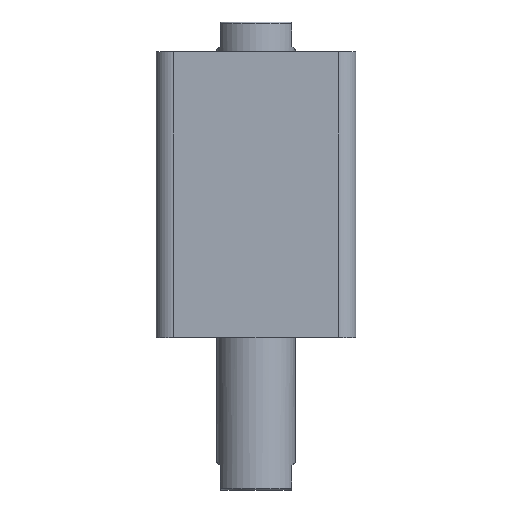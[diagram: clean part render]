
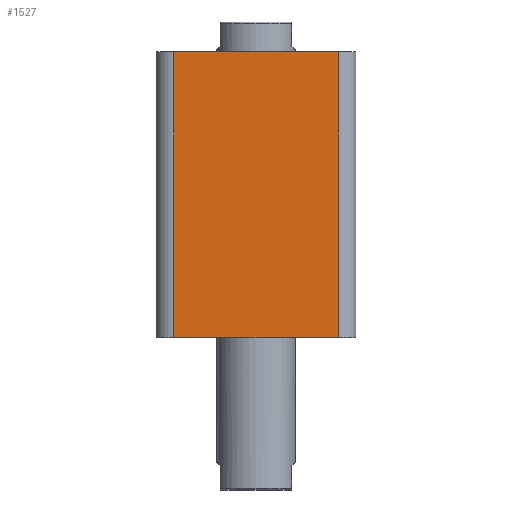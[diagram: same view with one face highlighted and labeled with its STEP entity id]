
A CAD part, front view. The second image highlights one B-rep face of the part: STEP entity #1527.
In plain terms, the highlighted planar face has unit normal (0, -1, 0).
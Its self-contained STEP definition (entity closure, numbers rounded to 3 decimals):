
#66 = AXIS2_PLACEMENT_3D ( 'NONE', #2760, #2983, #2982 ) ;
#108 = EDGE_CURVE ( 'NONE', #3042, #3043, #1102, .T. ) ;
#110 = EDGE_CURVE ( 'NONE', #3206, #1073, #1104, .T. ) ;
#429 = CARTESIAN_POINT ( 'NONE',  ( 47., -57., 163. ) ) ;
#454 = CARTESIAN_POINT ( 'NONE',  ( 47., -57., 0. ) ) ;
#473 = CARTESIAN_POINT ( 'NONE',  ( -47., -57., 163. ) ) ;
#655 = ORIENTED_EDGE ( 'NONE', *, *, #2509, .F. ) ;
#656 = ORIENTED_EDGE ( 'NONE', *, *, #110, .T. ) ;
#1073 = VERTEX_POINT ( 'NONE', #2810 ) ;
#1102 = LINE ( 'NONE', #2844, #1105 ) ;
#1104 = LINE ( 'NONE', #2874, #1109 ) ;
#1105 = VECTOR ( 'NONE', #2916, 1000. ) ;
#1109 = VECTOR ( 'NONE', #2854, 1000. ) ;
#1133 = FACE_OUTER_BOUND ( 'NONE', #3006, .T. ) ;
#1223 = LINE ( 'NONE', #1673, #1227 ) ;
#1226 = LINE ( 'NONE', #1681, #1229 ) ;
#1227 = VECTOR ( 'NONE', #1668, 1000. ) ;
#1229 = VECTOR ( 'NONE', #1684, 1000. ) ;
#1527 = ADVANCED_FACE ( 'NONE', ( #1133 ), #2761, .F. ) ;
#1668 = DIRECTION ( 'NONE',  ( 1., 0., 0. ) ) ;
#1673 = CARTESIAN_POINT ( 'NONE',  ( -57., -57., 0. ) ) ;
#1681 = CARTESIAN_POINT ( 'NONE',  ( -57., -57., 163. ) ) ;
#1684 = DIRECTION ( 'NONE',  ( 1., 0., 0. ) ) ;
#2508 = EDGE_CURVE ( 'NONE', #1073, #3042, #1223, .T. ) ;
#2509 = EDGE_CURVE ( 'NONE', #3206, #3043, #1226, .T. ) ;
#2642 = ORIENTED_EDGE ( 'NONE', *, *, #108, .T. ) ;
#2643 = ORIENTED_EDGE ( 'NONE', *, *, #2508, .T. ) ;
#2760 = CARTESIAN_POINT ( 'NONE',  ( -57., -57., 163. ) ) ;
#2761 = PLANE ( 'NONE',  #66 ) ;
#2810 = CARTESIAN_POINT ( 'NONE',  ( -47., -57., 0. ) ) ;
#2844 = CARTESIAN_POINT ( 'NONE',  ( 47., -57., 163. ) ) ;
#2854 = DIRECTION ( 'NONE',  ( 0., 0., -1. ) ) ;
#2874 = CARTESIAN_POINT ( 'NONE',  ( -47., -57., 163. ) ) ;
#2916 = DIRECTION ( 'NONE',  ( 0., 0., 1. ) ) ;
#2982 = DIRECTION ( 'NONE',  ( 0., 0., 1. ) ) ;
#2983 = DIRECTION ( 'NONE',  ( 0., 1., 0. ) ) ;
#3006 = EDGE_LOOP ( 'NONE', ( #2643, #2642, #655, #656 ) ) ;
#3042 = VERTEX_POINT ( 'NONE', #454 ) ;
#3043 = VERTEX_POINT ( 'NONE', #429 ) ;
#3206 = VERTEX_POINT ( 'NONE', #473 ) ;
